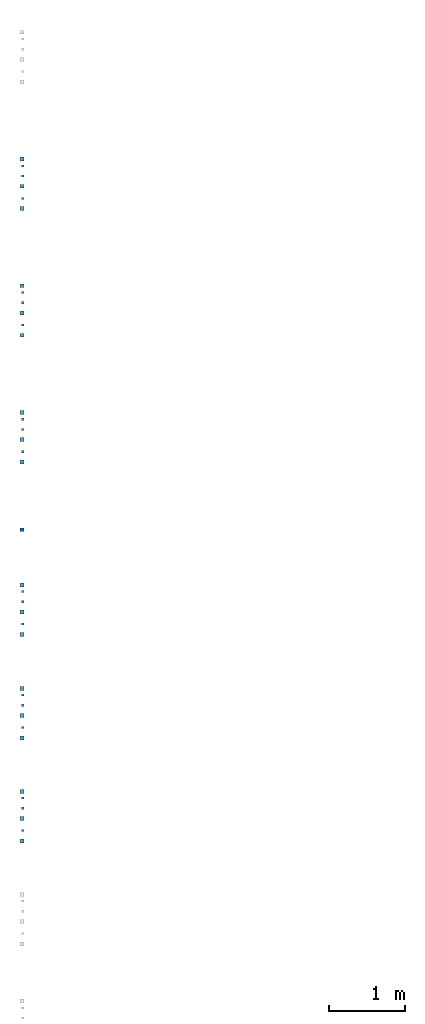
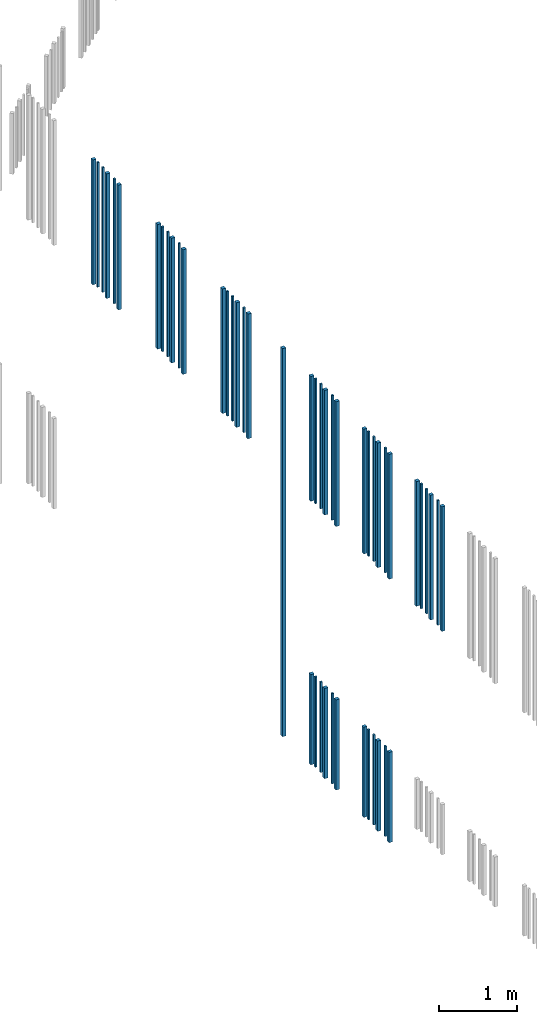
# One storey, part 25 of 124: 49 walls.
"""IFC2X3 building model written with IfcOpenShell, lengths in millimetres."""

from ifc_helpers import new_model, entity, si_unit, converted_unit, derived_unit, money_unit, direction, frame, origin_with_axes, place, context, subcontext, project, spatial, faceted_brep, material, type_object, element, save


model = new_model("IFC2X3")

# Units and contexts
model_context = context("Model", 3, precision=1e-05, world=origin_with_axes(), true_north=direction((0.0, 1.0)))
body_context = subcontext(model_context, "Body", "Model", "MODEL_VIEW")
ifc_project = project(units=[si_unit("LENGTHUNIT", "METRE", prefix="MILLI"), si_unit("AREAUNIT", "SQUARE_METRE"), si_unit("VOLUMEUNIT", "CUBIC_METRE"), converted_unit("PLANEANGLEUNIT", "DEGREE", entity("IfcPlaneAngleMeasure", 0.0174532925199), si_unit("PLANEANGLEUNIT", "RADIAN"), dimensions=[0, 0, 0, 0, 0, 0, 0]), si_unit("SOLIDANGLEUNIT", "STERADIAN"), money_unit("EUR"), converted_unit("TIMEUNIT", "Year", entity("IfcTimeMeasure", 31556926.0), si_unit("TIMEUNIT", "SECOND"), dimensions=[0, 0, 1, 0, 0, 0, 0]), si_unit("MASSUNIT", "GRAM", prefix="KILO"), si_unit("THERMODYNAMICTEMPERATUREUNIT", "DEGREE_CELSIUS"), si_unit("LUMINOUSINTENSITYUNIT", "LUMEN"), si_unit("ENERGYUNIT", "JOULE", prefix="MEGA"), derived_unit("THERMALCONDUCTANCEUNIT", [(si_unit("POWERUNIT", "WATT"), 1), (si_unit("LENGTHUNIT", "METRE"), -1), (si_unit("THERMODYNAMICTEMPERATUREUNIT", "KELVIN"), -1)]), derived_unit("SPECIFICHEATCAPACITYUNIT", [(si_unit("ENERGYUNIT", "JOULE"), 1), (si_unit("MASSUNIT", "GRAM", prefix="KILO"), -1), (si_unit("THERMODYNAMICTEMPERATUREUNIT", "KELVIN"), -1)]), derived_unit("MASSDENSITYUNIT", [(si_unit("MASSUNIT", "GRAM", prefix="KILO"), 1), (si_unit("VOLUMEUNIT", "CUBIC_METRE"), -1)])], contexts=[model_context])

# Site, building, storey
site_placement = place(None, origin_with_axes())
site = spatial("IfcSite", under=ifc_project, at=site_placement, Name="Site", CompositionType="ELEMENT")
building_placement = place(site_placement, origin_with_axes())
building = spatial("IfcBuilding", under=site, at=building_placement, Name="Building", CompositionType="ELEMENT")
storey_placement = place(building_placement, frame((0.0, 0.0, -1615.0), z_axis=(0.0, 0.0, 1.0), x_axis=(1.0, 0.0, 0.0)))
storey = spatial("IfcBuildingStorey", under=building, at=storey_placement, Name="0  korrus", CompositionType="ELEMENT", Elevation=-1615.0)

# Walls
ifc_material = material(Name="Site specified")
wall_type = type_object("IfcWallType", Name="Puitfassaadi ribistik", PredefinedType="NOTDEFINED")
wall_1_placement = place(storey_placement, frame((122387.999998, 69493.0018571, 9530.0), z_axis=(0.0, 0.0, 1.0), x_axis=(-5.16795809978e-08, 1.0, 0.0)))
element("IfcWall", 1, at=wall_1_placement, inside=storey, type_object=wall_type, material=ifc_material, Name="Site specified", context=body_context, shape_type="Brep", body=[
    faceted_brep([(25.0, 25.0, 1950.0), (25.0, 25.0, 0.0), (-25.0, 25.0, 0.0), (-25.0, 25.0, 1950.0), (25.0, -25.0, 1950.0), (25.0, -25.0, 0.0), (-25.0, -25.0, 0.0), (-25.0, -25.0, 1950.0)], [[[0, 1, 2, 3]], [[4, 5, 1, 0]], [[2, 1, 5, 6]], [[3, 2, 6, 7]], [[4, 0, 3, 7]], [[7, 6, 5, 4]]]),
])
wall_2_placement = place(storey_placement, frame((122398.999975, 71582.0124981, 9530.0), z_axis=(0.0, 0.0, 1.0), x_axis=(-5.16795809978e-08, 1.0, 0.0)))
element("IfcWall", 2, at=wall_2_placement, inside=storey, type_object=wall_type, material=ifc_material, Name="Site specified", context=body_context, shape_type="Brep", body=[
    faceted_brep([(14.0, 14.0, 1950.0), (14.0, 14.0, 0.0), (-14.0, 14.0, 0.0), (-14.0, 14.0, 1950.0), (14.0, -14.0, 1950.0), (14.0, -14.0, 0.0), (-14.0, -14.0, 0.0), (-14.0, -14.0, 1950.0)], [[[0, 1, 2, 3]], [[4, 5, 1, 0]], [[2, 1, 5, 6]], [[3, 2, 6, 7]], [[4, 0, 3, 7]], [[7, 6, 5, 4]]]),
])
for number, where, z_axis, x_axis, name in (
    (3, (122387.999982, 71448.0100338, 9530.0), (0.0, 0.0, 1.0), (-5.16795809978e-08, 1.0, 0.0), "Site specified"),
    (4, (122387.999964, 71804.0156671, 9530.0), (0.0, 0.0, 1.0), (-5.16795809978e-08, 1.0, 0.0), "Site specified"),
):
    element("IfcWall", number, at=place(storey_placement, frame(where, z_axis=z_axis, x_axis=x_axis)), inside=storey, type_object=wall_type, material=ifc_material, Name=name, context=body_context, shape_type="Brep", body=[
        faceted_brep([(25.0, 25.0, 1950.0), (25.0, 25.0, 0.0), (-25.0, 25.0, 0.0), (-25.0, 25.0, 1950.0), (25.0, -25.0, 1950.0), (25.0, -25.0, 0.0), (-25.0, -25.0, 0.0), (-25.0, -25.0, 1950.0)], [[[0, 1, 2, 3]], [[4, 5, 1, 0]], [[2, 1, 5, 6]], [[3, 2, 6, 7]], [[4, 0, 3, 7]], [[7, 6, 5, 4]]]),
    ])
for number, where, z_axis, x_axis, name in (
    (5, (122398.99999, 71289.012527, 9530.0), (0.0, 0.0, 1.0), (-5.16795809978e-08, 1.0, 0.0), "Site specified"),
    (6, (122398.999968, 71715.0124973, 9530.0), (0.0, 0.0, 1.0), (-5.16795809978e-08, 1.0, 0.0), "Site specified"),
):
    element("IfcWall", number, at=place(storey_placement, frame(where, z_axis=z_axis, x_axis=x_axis)), inside=storey, type_object=wall_type, material=ifc_material, Name=name, context=body_context, shape_type="Brep", body=[
        faceted_brep([(14.0, 14.0, 1950.0), (14.0, 14.0, 0.0), (-14.0, 14.0, 0.0), (-14.0, 14.0, 1950.0), (14.0, -14.0, 1950.0), (14.0, -14.0, 0.0), (-14.0, -14.0, 0.0), (-14.0, -14.0, 1950.0)], [[[0, 1, 2, 3]], [[4, 5, 1, 0]], [[2, 1, 5, 6]], [[3, 2, 6, 7]], [[4, 0, 3, 7]], [[7, 6, 5, 4]]]),
    ])
wall_3_placement = place(storey_placement, frame((122387.999997, 71154.010036, 9530.0), z_axis=(0.0, 0.0, 1.0), x_axis=(-5.16795809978e-08, 1.0, 0.0)))
element("IfcWall", 7, at=wall_3_placement, inside=storey, type_object=wall_type, material=ifc_material, Name="Site specified", context=body_context, shape_type="Brep", body=[
    faceted_brep([(25.0, 25.0, 1950.0), (25.0, 25.0, 0.0), (-25.0, 25.0, 0.0), (-25.0, 25.0, 1950.0), (25.0, -25.0, 1950.0), (25.0, -25.0, 0.0), (-25.0, -25.0, 0.0), (-25.0, -25.0, 1950.0)], [[[0, 1, 2, 3]], [[4, 5, 1, 0]], [[2, 1, 5, 6]], [[3, 2, 6, 7]], [[4, 0, 3, 7]], [[7, 6, 5, 4]]]),
])
wall_4_placement = place(storey_placement, frame((122387.999984, 66945.0000741, 5410.0), z_axis=(0.0, 0.0, 1.0), x_axis=(-5.16795809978e-08, 1.0, 0.0)))
element("IfcWall", 8, at=wall_4_placement, inside=storey, type_object=wall_type, material=ifc_material, Name="Site specified", context=body_context, shape_type="Brep", body=[
    faceted_brep([(25.0, 25.0, 6070.0), (25.0, 25.0, 0.0), (-25.0, 25.0, 0.0), (-25.0, 25.0, 6070.0), (25.0, -25.0, 6070.0), (25.0, -25.0, 0.0), (-25.0, -25.0, 0.0), (-25.0, -25.0, 6070.0)], [[[0, 1, 2, 3]], [[4, 5, 1, 0]], [[2, 1, 5, 6]], [[3, 2, 6, 7]], [[4, 0, 3, 7]], [[7, 6, 5, 4]]]),
])
wall_5_placement = place(storey_placement, frame((122398.999976, 68259.9961404, 9530.0), z_axis=(0.0, 0.0, 1.0), x_axis=(-5.16795809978e-08, 1.0, 0.0)))
element("IfcWall", 9, at=wall_5_placement, inside=storey, type_object=wall_type, material=ifc_material, Name="Site specified", context=body_context, shape_type="Brep", body=[
    faceted_brep([(14.0, 14.0, 1950.0), (14.0, 14.0, 0.0), (-14.0, 14.0, 0.0), (-14.0, 14.0, 1950.0), (14.0, -14.0, 1950.0), (14.0, -14.0, 0.0), (-14.0, -14.0, 0.0), (-14.0, -14.0, 1950.0)], [[[0, 1, 2, 3]], [[4, 5, 1, 0]], [[2, 1, 5, 6]], [[3, 2, 6, 7]], [[4, 0, 3, 7]], [[7, 6, 5, 4]]]),
])
wall_6_placement = place(storey_placement, frame((122387.999998, 67831.9936782, 9530.0), z_axis=(0.0, 0.0, 1.0), x_axis=(-5.16795809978e-08, 1.0, 0.0)))
element("IfcWall", 10, at=wall_6_placement, inside=storey, type_object=wall_type, material=ifc_material, Name="Site specified", context=body_context, shape_type="Brep", body=[
    faceted_brep([(25.0, 25.0, 1950.0), (25.0, 25.0, 0.0), (-25.0, 25.0, 0.0), (-25.0, 25.0, 1950.0), (25.0, -25.0, 1950.0), (25.0, -25.0, 0.0), (-25.0, -25.0, 0.0), (-25.0, -25.0, 1950.0)], [[[0, 1, 2, 3]], [[4, 5, 1, 0]], [[2, 1, 5, 6]], [[3, 2, 6, 7]], [[4, 0, 3, 7]], [[7, 6, 5, 4]]]),
])
for number, where, z_axis, x_axis, name in (
    (11, (122398.999991, 67966.9961693, 9530.0), (0.0, 0.0, 1.0), (-5.16795809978e-08, 1.0, 0.0), "Site specified"),
    (12, (122398.999969, 68392.9961395, 9530.0), (0.0, 0.0, 1.0), (-5.16795809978e-08, 1.0, 0.0), "Site specified"),
):
    element("IfcWall", number, at=place(storey_placement, frame(where, z_axis=z_axis, x_axis=x_axis)), inside=storey, type_object=wall_type, material=ifc_material, Name=name, context=body_context, shape_type="Brep", body=[
        faceted_brep([(14.0, 14.0, 1950.0), (14.0, 14.0, 0.0), (-14.0, 14.0, 0.0), (-14.0, 14.0, 1950.0), (14.0, -14.0, 1950.0), (14.0, -14.0, 0.0), (-14.0, -14.0, 0.0), (-14.0, -14.0, 1950.0)], [[[0, 1, 2, 3]], [[4, 5, 1, 0]], [[2, 1, 5, 6]], [[3, 2, 6, 7]], [[4, 0, 3, 7]], [[7, 6, 5, 4]]]),
    ])
for number, where, z_axis, x_axis, name in (
    (13, (122387.999964, 68481.9993094, 9530.0), (0.0, 0.0, 1.0), (-5.16795809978e-08, 1.0, 0.0), "Site specified"),
    (14, (122387.999983, 68125.993676, 9530.0), (0.0, 0.0, 1.0), (-5.16795809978e-08, 1.0, 0.0), "Site specified"),
):
    element("IfcWall", number, at=place(storey_placement, frame(where, z_axis=z_axis, x_axis=x_axis)), inside=storey, type_object=wall_type, material=ifc_material, Name=name, context=body_context, shape_type="Brep", body=[
        faceted_brep([(25.0, 25.0, 1950.0), (25.0, 25.0, 0.0), (-25.0, 25.0, 0.0), (-25.0, 25.0, 1950.0), (25.0, -25.0, 1950.0), (25.0, -25.0, 0.0), (-25.0, -25.0, 0.0), (-25.0, -25.0, 1950.0)], [[[0, 1, 2, 3]], [[4, 5, 1, 0]], [[2, 1, 5, 6]], [[3, 2, 6, 7]], [[4, 0, 3, 7]], [[7, 6, 5, 4]]]),
    ])
for number, where, z_axis, x_axis, name in (
    (15, (122398.999991, 69628.0043481, 9530.0), (0.0, 0.0, 1.0), (-5.16795809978e-08, 1.0, 0.0), "Site specified"),
    (16, (122398.999969, 70054.0043184, 9530.0), (0.0, 0.0, 1.0), (-5.16795809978e-08, 1.0, 0.0), "Site specified"),
    (17, (122398.999975, 69921.0043192, 9530.0), (0.0, 0.0, 1.0), (-5.16795809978e-08, 1.0, 0.0), "Site specified"),
):
    element("IfcWall", number, at=place(storey_placement, frame(where, z_axis=z_axis, x_axis=x_axis)), inside=storey, type_object=wall_type, material=ifc_material, Name=name, context=body_context, shape_type="Brep", body=[
        faceted_brep([(14.0, 14.0, 1950.0), (14.0, 14.0, 0.0), (-14.0, 14.0, 0.0), (-14.0, 14.0, 1950.0), (14.0, -14.0, 1950.0), (14.0, -14.0, 0.0), (-14.0, -14.0, 0.0), (-14.0, -14.0, 1950.0)], [[[0, 1, 2, 3]], [[4, 5, 1, 0]], [[2, 1, 5, 6]], [[3, 2, 6, 7]], [[4, 0, 3, 7]], [[7, 6, 5, 4]]]),
    ])
for number, where, z_axis, x_axis, name in (
    (18, (122387.999964, 70143.0074882, 9530.0), (0.0, 0.0, 1.0), (-5.16795809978e-08, 1.0, 0.0), "Site specified"),
    (19, (122387.999982, 69787.0018549, 9530.0), (0.0, 0.0, 1.0), (-5.16795809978e-08, 1.0, 0.0), "Site specified"),
    (20, (122387.999965, 63515.0241573, 9530.0), (0.0, 0.0, 1.0), (-5.16795809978e-08, 1.0, 0.0), "Site specified"),
    (21, (122387.999984, 63159.018524, 9530.0), (0.0, 0.0, 1.0), (-5.16795809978e-08, 1.0, 0.0), "Site specified"),
):
    element("IfcWall", number, at=place(storey_placement, frame(where, z_axis=z_axis, x_axis=x_axis)), inside=storey, type_object=wall_type, material=ifc_material, Name=name, context=body_context, shape_type="Brep", body=[
        faceted_brep([(25.0, 25.0, 1950.0), (25.0, 25.0, 0.0), (-25.0, 25.0, 0.0), (-25.0, 25.0, 1950.0), (25.0, -25.0, 1950.0), (25.0, -25.0, 0.0), (-25.0, -25.0, 0.0), (-25.0, -25.0, 1950.0)], [[[0, 1, 2, 3]], [[4, 5, 1, 0]], [[2, 1, 5, 6]], [[3, 2, 6, 7]], [[4, 0, 3, 7]], [[7, 6, 5, 4]]]),
    ])
for number, where, z_axis, x_axis, name in (
    (22, (122387.999965, 64865.0241573, 5410.0), (0.0, 0.0, 1.0), (-5.16795809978e-08, 1.0, 0.0), "Site specified"),
    (23, (122387.999983, 65866.018213, 5410.0), (0.0, 0.0, 1.0), (-5.16795809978e-08, 1.0, 0.0), "Site specified"),
):
    element("IfcWall", number, at=place(storey_placement, frame(where, z_axis=z_axis, x_axis=x_axis)), inside=storey, type_object=wall_type, material=ifc_material, Name=name, context=body_context, shape_type="Brep", body=[
        faceted_brep([(25.0, 25.0, 1411.0), (25.0, 25.0, 0.0), (-25.0, 25.0, 0.0), (-25.0, 25.0, 1411.0), (25.0, -25.0, 1411.0), (25.0, -25.0, 0.0), (-25.0, -25.0, 0.0), (-25.0, -25.0, 1411.0)], [[[0, 1, 2, 3]], [[4, 5, 1, 0]], [[2, 1, 5, 6]], [[3, 2, 6, 7]], [[4, 0, 3, 7]], [[7, 6, 5, 4]]]),
    ])
wall_7_placement = place(storey_placement, frame((122398.999969, 66133.0206765, 9530.0), z_axis=(0.0, 0.0, 1.0), x_axis=(-5.16795809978e-08, 1.0, 0.0)))
element("IfcWall", 24, at=wall_7_placement, inside=storey, type_object=wall_type, material=ifc_material, Name="Site specified", context=body_context, shape_type="Brep", body=[
    faceted_brep([(14.0, 14.0, 1950.0), (14.0, 14.0, 0.0), (-14.0, 14.0, 0.0), (-14.0, 14.0, 1950.0), (14.0, -14.0, 1950.0), (14.0, -14.0, 0.0), (-14.0, -14.0, 0.0), (-14.0, -14.0, 1950.0)], [[[0, 1, 2, 3]], [[4, 5, 1, 0]], [[2, 1, 5, 6]], [[3, 2, 6, 7]], [[4, 0, 3, 7]], [[7, 6, 5, 4]]]),
])
wall_8_placement = place(storey_placement, frame((122387.999998, 65572.0182152, 9530.0), z_axis=(0.0, 0.0, 1.0), x_axis=(-5.16795809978e-08, 1.0, 0.0)))
element("IfcWall", 25, at=wall_8_placement, inside=storey, type_object=wall_type, material=ifc_material, Name="Site specified", context=body_context, shape_type="Brep", body=[
    faceted_brep([(25.0, 25.0, 1950.0), (25.0, 25.0, 0.0), (-25.0, 25.0, 0.0), (-25.0, 25.0, 1950.0), (25.0, -25.0, 1950.0), (25.0, -25.0, 0.0), (-25.0, -25.0, 0.0), (-25.0, -25.0, 1950.0)], [[[0, 1, 2, 3]], [[4, 5, 1, 0]], [[2, 1, 5, 6]], [[3, 2, 6, 7]], [[4, 0, 3, 7]], [[7, 6, 5, 4]]]),
])
for number, where, z_axis, x_axis, name in (
    (26, (122398.999991, 65707.0207063, 9530.0), (0.0, 0.0, 1.0), (-5.16795809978e-08, 1.0, 0.0), "Site specified"),
    (27, (122398.999976, 66000.0206774, 9530.0), (0.0, 0.0, 1.0), (-5.16795809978e-08, 1.0, 0.0), "Site specified"),
):
    element("IfcWall", number, at=place(storey_placement, frame(where, z_axis=z_axis, x_axis=x_axis)), inside=storey, type_object=wall_type, material=ifc_material, Name=name, context=body_context, shape_type="Brep", body=[
        faceted_brep([(14.0, 14.0, 1950.0), (14.0, 14.0, 0.0), (-14.0, 14.0, 0.0), (-14.0, 14.0, 1950.0), (14.0, -14.0, 1950.0), (14.0, -14.0, 0.0), (-14.0, -14.0, 0.0), (-14.0, -14.0, 1950.0)], [[[0, 1, 2, 3]], [[4, 5, 1, 0]], [[2, 1, 5, 6]], [[3, 2, 6, 7]], [[4, 0, 3, 7]], [[7, 6, 5, 4]]]),
    ])
for number, where, z_axis, x_axis, name in (
    (28, (122387.999965, 66222.0238464, 9530.0), (0.0, 0.0, 1.0), (-5.16795809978e-08, 1.0, 0.0), "Site specified"),
    (29, (122387.999983, 65866.018213, 9530.0), (0.0, 0.0, 1.0), (-5.16795809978e-08, 1.0, 0.0), "Site specified"),
):
    element("IfcWall", number, at=place(storey_placement, frame(where, z_axis=z_axis, x_axis=x_axis)), inside=storey, type_object=wall_type, material=ifc_material, Name=name, context=body_context, shape_type="Brep", body=[
        faceted_brep([(25.0, 25.0, 1950.0), (25.0, 25.0, 0.0), (-25.0, 25.0, 0.0), (-25.0, 25.0, 1950.0), (25.0, -25.0, 1950.0), (25.0, -25.0, 0.0), (-25.0, -25.0, 0.0), (-25.0, -25.0, 1950.0)], [[[0, 1, 2, 3]], [[4, 5, 1, 0]], [[2, 1, 5, 6]], [[3, 2, 6, 7]], [[4, 0, 3, 7]], [[7, 6, 5, 4]]]),
    ])
for number, where, z_axis, x_axis, name in (
    (30, (122387.999983, 64509.018524, 5410.0), (0.0, 0.0, 1.0), (-5.16795809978e-08, 1.0, 0.0), "Site specified"),
    (31, (122387.999998, 65572.0182152, 5410.0), (0.0, 0.0, 1.0), (-5.16795809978e-08, 1.0, 0.0), "Site specified"),
    (32, (122387.999965, 66222.0238464, 5410.0), (0.0, 0.0, 1.0), (-5.16795809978e-08, 1.0, 0.0), "Site specified"),
):
    element("IfcWall", number, at=place(storey_placement, frame(where, z_axis=z_axis, x_axis=x_axis)), inside=storey, type_object=wall_type, material=ifc_material, Name=name, context=body_context, shape_type="Brep", body=[
        faceted_brep([(25.0, 25.0, 1411.0), (25.0, 25.0, 0.0), (-25.0, 25.0, 0.0), (-25.0, 25.0, 1411.0), (25.0, -25.0, 1411.0), (25.0, -25.0, 0.0), (-25.0, -25.0, 0.0), (-25.0, -25.0, 1411.0)], [[[0, 1, 2, 3]], [[4, 5, 1, 0]], [[2, 1, 5, 6]], [[3, 2, 6, 7]], [[4, 0, 3, 7]], [[7, 6, 5, 4]]]),
    ])
for number, where, z_axis, x_axis, name in (
    (33, (122398.999991, 65707.0207063, 5410.0), (0.0, 0.0, 1.0), (-5.16795809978e-08, 1.0, 0.0), "Site specified"),
    (34, (122398.999969, 66133.0206765, 5410.0), (0.0, 0.0, 1.0), (-5.16795809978e-08, 1.0, 0.0), "Site specified"),
    (35, (122398.999976, 66000.0206774, 5410.0), (0.0, 0.0, 1.0), (-5.16795809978e-08, 1.0, 0.0), "Site specified"),
):
    element("IfcWall", number, at=place(storey_placement, frame(where, z_axis=z_axis, x_axis=x_axis)), inside=storey, type_object=wall_type, material=ifc_material, Name=name, context=body_context, shape_type="Brep", body=[
        faceted_brep([(14.0, 14.0, 1411.0), (14.0, 14.0, 0.0), (-14.0, 14.0, 0.0), (-14.0, 14.0, 1411.0), (14.0, -14.0, 1411.0), (14.0, -14.0, 0.0), (-14.0, -14.0, 0.0), (-14.0, -14.0, 1411.0)], [[[0, 1, 2, 3]], [[4, 5, 1, 0]], [[2, 1, 5, 6]], [[3, 2, 6, 7]], [[4, 0, 3, 7]], [[7, 6, 5, 4]]]),
    ])
for number, where, z_axis, x_axis, name in (
    (36, (122398.999992, 63000.0210172, 9530.0), (0.0, 0.0, 1.0), (-5.16795809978e-08, 1.0, 0.0), "Site specified"),
    (37, (122398.99997, 63426.0209875, 9530.0), (0.0, 0.0, 1.0), (-5.16795809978e-08, 1.0, 0.0), "Site specified"),
    (38, (122398.999977, 63293.0209883, 9530.0), (0.0, 0.0, 1.0), (-5.16795809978e-08, 1.0, 0.0), "Site specified"),
):
    element("IfcWall", number, at=place(storey_placement, frame(where, z_axis=z_axis, x_axis=x_axis)), inside=storey, type_object=wall_type, material=ifc_material, Name=name, context=body_context, shape_type="Brep", body=[
        faceted_brep([(14.0, 14.0, 1950.0), (14.0, 14.0, 0.0), (-14.0, 14.0, 0.0), (-14.0, 14.0, 1950.0), (14.0, -14.0, 1950.0), (14.0, -14.0, 0.0), (-14.0, -14.0, 0.0), (-14.0, -14.0, 1950.0)], [[[0, 1, 2, 3]], [[4, 5, 1, 0]], [[2, 1, 5, 6]], [[3, 2, 6, 7]], [[4, 0, 3, 7]], [[7, 6, 5, 4]]]),
    ])
for number, where, z_axis, x_axis, name in (
    (39, (122398.999976, 64643.0209883, 5410.0), (0.0, 0.0, 1.0), (-5.16795809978e-08, 1.0, 0.0), "Site specified"),
    (40, (122398.99997, 64776.0209875, 5410.0), (0.0, 0.0, 1.0), (-5.16795809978e-08, 1.0, 0.0), "Site specified"),
    (41, (122398.999992, 64350.0210172, 5410.0), (0.0, 0.0, 1.0), (-5.16795809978e-08, 1.0, 0.0), "Site specified"),
):
    element("IfcWall", number, at=place(storey_placement, frame(where, z_axis=z_axis, x_axis=x_axis)), inside=storey, type_object=wall_type, material=ifc_material, Name=name, context=body_context, shape_type="Brep", body=[
        faceted_brep([(14.0, 14.0, 1411.0), (14.0, 14.0, 0.0), (-14.0, 14.0, 0.0), (-14.0, 14.0, 1411.0), (14.0, -14.0, 1411.0), (14.0, -14.0, 0.0), (-14.0, -14.0, 0.0), (-14.0, -14.0, 1411.0)], [[[0, 1, 2, 3]], [[4, 5, 1, 0]], [[2, 1, 5, 6]], [[3, 2, 6, 7]], [[4, 0, 3, 7]], [[7, 6, 5, 4]]]),
    ])
wall_9_placement = place(storey_placement, frame((122387.999999, 64215.0185262, 5410.0), z_axis=(0.0, 0.0, 1.0), x_axis=(-5.16795809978e-08, 1.0, 0.0)))
element("IfcWall", 42, at=wall_9_placement, inside=storey, type_object=wall_type, material=ifc_material, Name="Site specified", context=body_context, shape_type="Brep", body=[
    faceted_brep([(25.0, 25.0, 1411.0), (25.0, 25.0, 0.0), (-25.0, 25.0, 0.0), (-25.0, 25.0, 1411.0), (25.0, -25.0, 1411.0), (25.0, -25.0, 0.0), (-25.0, -25.0, 0.0), (-25.0, -25.0, 1411.0)], [[[0, 1, 2, 3]], [[4, 5, 1, 0]], [[2, 1, 5, 6]], [[3, 2, 6, 7]], [[4, 0, 3, 7]], [[7, 6, 5, 4]]]),
])
wall_10_placement = place(storey_placement, frame((122387.999999, 64215.0185262, 9530.0), z_axis=(0.0, 0.0, 1.0), x_axis=(-5.16795809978e-08, 1.0, 0.0)))
element("IfcWall", 43, at=wall_10_placement, inside=storey, type_object=wall_type, material=ifc_material, Name="Site specified", context=body_context, shape_type="Brep", body=[
    faceted_brep([(25.0, 25.0, 1950.0), (25.0, 25.0, 0.0), (-25.0, 25.0, 0.0), (-25.0, 25.0, 1950.0), (25.0, -25.0, 1950.0), (25.0, -25.0, 0.0), (-25.0, -25.0, 0.0), (-25.0, -25.0, 1950.0)], [[[0, 1, 2, 3]], [[4, 5, 1, 0]], [[2, 1, 5, 6]], [[3, 2, 6, 7]], [[4, 0, 3, 7]], [[7, 6, 5, 4]]]),
])
wall_11_placement = place(storey_placement, frame((122398.999992, 64350.0210172, 9530.0), z_axis=(0.0, 0.0, 1.0), x_axis=(-5.16795809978e-08, 1.0, 0.0)))
element("IfcWall", 44, at=wall_11_placement, inside=storey, type_object=wall_type, material=ifc_material, Name="Site specified", context=body_context, shape_type="Brep", body=[
    faceted_brep([(14.0, 14.0, 1950.0), (14.0, 14.0, 0.0), (-14.0, 14.0, 0.0), (-14.0, 14.0, 1950.0), (14.0, -14.0, 1950.0), (14.0, -14.0, 0.0), (-14.0, -14.0, 0.0), (-14.0, -14.0, 1950.0)], [[[0, 1, 2, 3]], [[4, 5, 1, 0]], [[2, 1, 5, 6]], [[3, 2, 6, 7]], [[4, 0, 3, 7]], [[7, 6, 5, 4]]]),
])
wall_12_placement = place(storey_placement, frame((122387.999983, 64509.018524, 9530.0), z_axis=(0.0, 0.0, 1.0), x_axis=(-5.16795809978e-08, 1.0, 0.0)))
element("IfcWall", 45, at=wall_12_placement, inside=storey, type_object=wall_type, material=ifc_material, Name="Site specified", context=body_context, shape_type="Brep", body=[
    faceted_brep([(25.0, 25.0, 1950.0), (25.0, 25.0, 0.0), (-25.0, 25.0, 0.0), (-25.0, 25.0, 1950.0), (25.0, -25.0, 1950.0), (25.0, -25.0, 0.0), (-25.0, -25.0, 0.0), (-25.0, -25.0, 1950.0)], [[[0, 1, 2, 3]], [[4, 5, 1, 0]], [[2, 1, 5, 6]], [[3, 2, 6, 7]], [[4, 0, 3, 7]], [[7, 6, 5, 4]]]),
])
for number, where, z_axis, x_axis, name in (
    (46, (122398.99997, 64776.0209875, 9530.0), (0.0, 0.0, 1.0), (-5.16795809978e-08, 1.0, 0.0), "Site specified"),
    (47, (122398.999976, 64643.0209883, 9530.0), (0.0, 0.0, 1.0), (-5.16795809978e-08, 1.0, 0.0), "Site specified"),
):
    element("IfcWall", number, at=place(storey_placement, frame(where, z_axis=z_axis, x_axis=x_axis)), inside=storey, type_object=wall_type, material=ifc_material, Name=name, context=body_context, shape_type="Brep", body=[
        faceted_brep([(14.0, 14.0, 1950.0), (14.0, 14.0, 0.0), (-14.0, 14.0, 0.0), (-14.0, 14.0, 1950.0), (14.0, -14.0, 1950.0), (14.0, -14.0, 0.0), (-14.0, -14.0, 0.0), (-14.0, -14.0, 1950.0)], [[[0, 1, 2, 3]], [[4, 5, 1, 0]], [[2, 1, 5, 6]], [[3, 2, 6, 7]], [[4, 0, 3, 7]], [[7, 6, 5, 4]]]),
    ])
for number, where, z_axis, x_axis, name in (
    (48, (122387.999965, 64865.0241573, 9530.0), (0.0, 0.0, 1.0), (-5.16795809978e-08, 1.0, 0.0), "Site specified"),
    (49, (122387.999999, 62865.0185262, 9530.0), (0.0, 0.0, 1.0), (-5.16795809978e-08, 1.0, 0.0), "Site specified"),
):
    element("IfcWall", number, at=place(storey_placement, frame(where, z_axis=z_axis, x_axis=x_axis)), inside=storey, type_object=wall_type, material=ifc_material, Name=name, context=body_context, shape_type="Brep", body=[
        faceted_brep([(25.0, 25.0, 1950.0), (25.0, 25.0, 0.0), (-25.0, 25.0, 0.0), (-25.0, 25.0, 1950.0), (25.0, -25.0, 1950.0), (25.0, -25.0, 0.0), (-25.0, -25.0, 0.0), (-25.0, -25.0, 1950.0)], [[[0, 1, 2, 3]], [[4, 5, 1, 0]], [[2, 1, 5, 6]], [[3, 2, 6, 7]], [[4, 0, 3, 7]], [[7, 6, 5, 4]]]),
    ])

save(model, "model.ifc")
